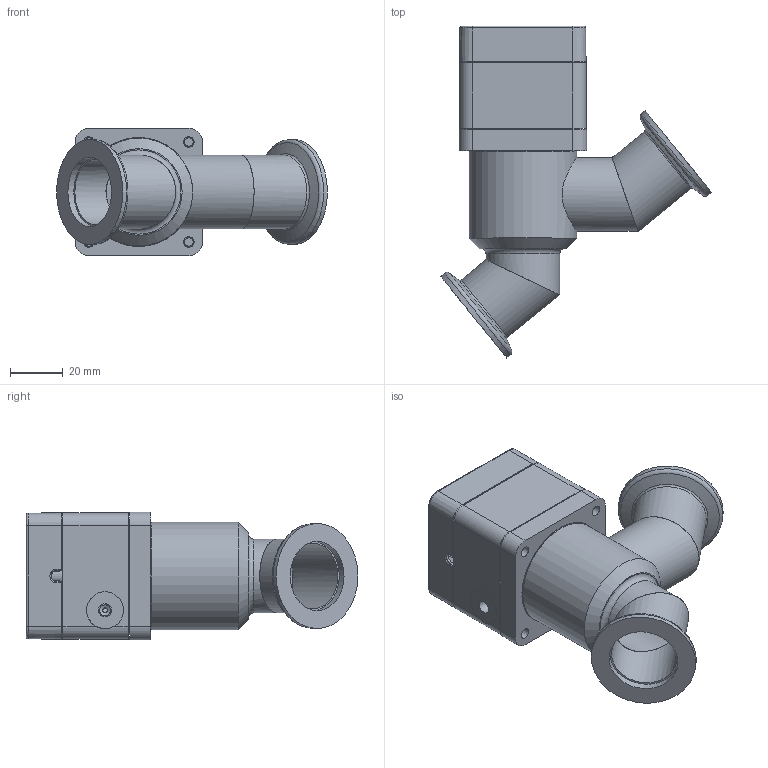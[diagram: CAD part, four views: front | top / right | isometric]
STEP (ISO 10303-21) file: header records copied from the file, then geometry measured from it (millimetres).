
FILE_DESCRIPTION(/* description */ (''),/* implementation_level */ '2;1');
FILE_NAME(/* name */ '1719054732_203.stp',/* time_stamp */ '2013-11-05T13:28:05+01:00',/* author */ (''),/* organization */ (''),/* preprocessor_version */ 'ST-DEVELOPER v11',/* originating_system */ 'SIEMENS PLM Software NX 7.5',/* authorisation */ '');
FILE_SCHEMA (('AP203_CONFIGURATION_CONTROLLED_3D_DESIGN_OF_MECHANICAL_PARTS_AND_ASSEMBLIES_MIM_LF'));
Length unit declared in the file: millimetre
Products named in the file (13): 257238.5; 245689.5; 257237.6; 264931.2; 264932.2; 233359; 236204_1.1; 232436.6; 232437.11; 218183.1; 264933.4; 239983.3; 715994
Assembly tree (16 placements, depth 3):
  715994
    218183.1  x4
    232437.11
    232436.6
    239983.3
      236204_1.1  x2
      233359
    264933.4
      264932.2
      264931.2
      257237.6
      245689.5
      257238.5
Bounding box: 102.81 x 126.05 x 48.4 mm (x, y, z)
Volume: 78252.5 mm3; surface area: 64946.5 mm2
Topology: 14 solids, 14 shells, 497 faces, 1237 edges, 803 vertices
Faces by surface type: plane 269, cylinder 113, cone 75, torus 23, bspline 17
Full cylindrical faces by diameter (mm): 1.8 x1, 2.5 x2, 3 x6, 4 x8, 4.2 x1, 4.3 x4, 4.4 x1, 5 x1, 5.1 x1, 5.6 x2, 6 x1, 7 x4, 7.4 x1, 7.975 x3, 8 x1, 8.012 x2, 11.2 x1, 12.5 x1, 14 x1, 17.5 x1, 25 x5, 26.3 x2, 28 x4, 36.5 x1, 39.05 x1, 39.896 x2, 40.9 x1, 41.3 x1, 41.45 x1, 41.85 x1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
Entity records: 15447 total; most frequent: CARTESIAN_POINT 2879, DIRECTION 2131, ORIENTED_EDGE 1918, EDGE_CURVE 959, AXIS2_PLACEMENT_3D 792, VERTEX_POINT 694, EDGE_LOOP 639, LINE 547
